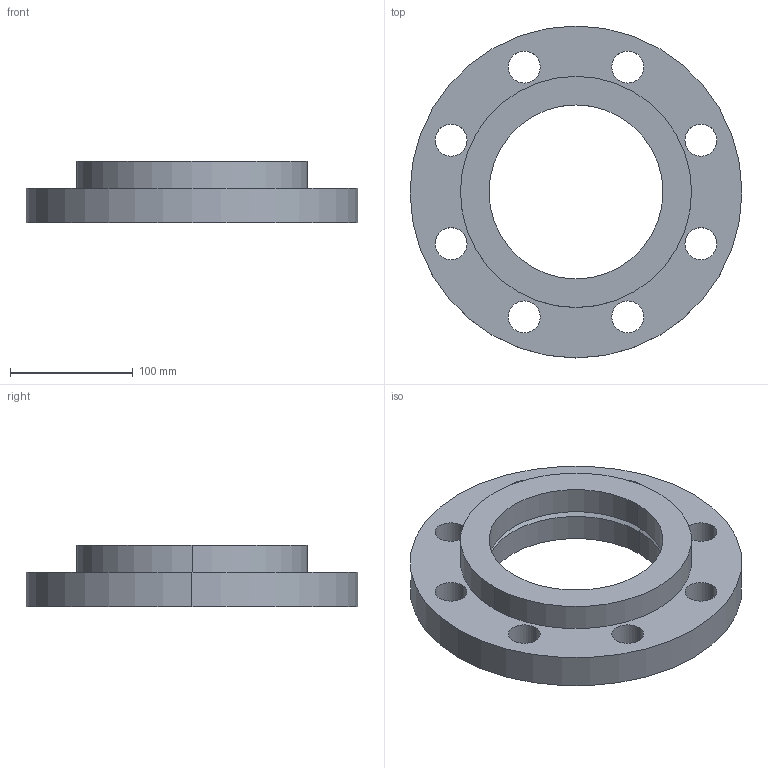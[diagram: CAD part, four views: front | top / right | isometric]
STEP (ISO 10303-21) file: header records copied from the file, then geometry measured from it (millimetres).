
FILE_DESCRIPTION (( 'STEP AP214' ), '1' );
FILE_NAME ('PN40 DN125 Type 02 in 32 - (Type A Face).STEP', '2019-01-02T19:36:35', ( '' ), ( '' ), 'SwSTEP 2.0', 'SolidWorks 2019', '' );
FILE_SCHEMA (( 'AUTOMOTIVE_DESIGN' ));
Length unit declared in the file: millimetre
Products named in the file (1): PN40 DN125 Type 02 in 32 - (Type A Face)
Bounding box: 270 x 270 x 50 mm (x, y, z)
Volume: 1278177.8 mm3; surface area: 173078.7 mm2
Topology: 2 solids, 2 shells, 30 faces, 76 edges, 50 vertices
Faces by surface type: cylinder 24, plane 4, cone 2
Entity records: 1017 total; most frequent: DIRECTION 188, CARTESIAN_POINT 157, ORIENTED_EDGE 152, AXIS2_PLACEMENT_3D 81, EDGE_CURVE 76, CIRCLE 50, VERTEX_POINT 50, EDGE_LOOP 50
